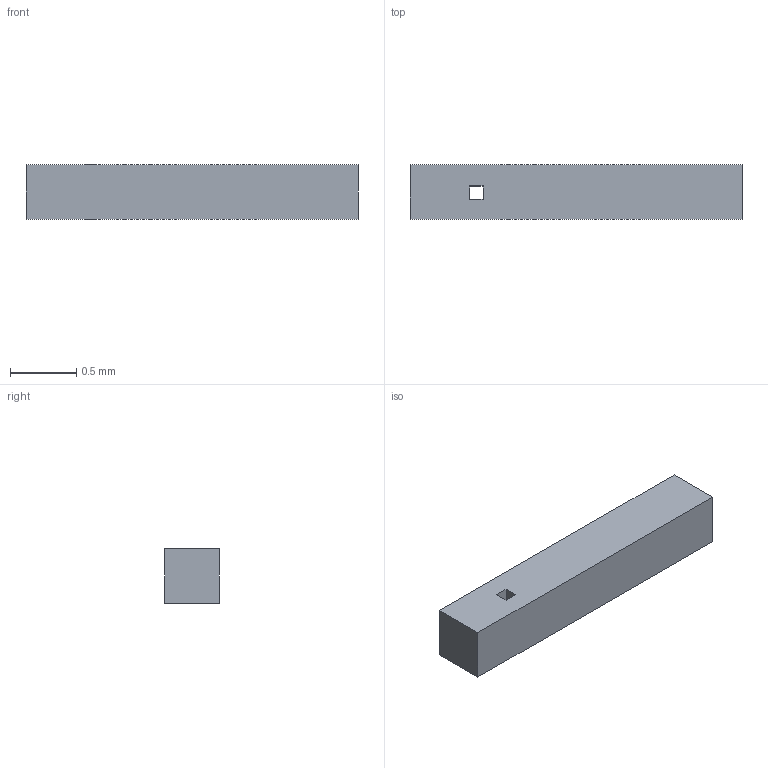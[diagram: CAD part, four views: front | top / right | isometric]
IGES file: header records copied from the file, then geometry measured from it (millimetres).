
Global section: file name: Filename.iges; native system: Open CASCADE 6.2; preprocessor: Open CASCADE IGES processor 6.2; author: mikko; date: 20090315.222127; units: millimetre
Bounding box: 2.5 x 0.41 x 0.41 mm (x, y, z)
Volume: 0.4 mm3; surface area: 4.6 mm2
Topology: 1 solids, 1 shells, 10 faces, 24 edges, 16 vertices
Faces by surface type: plane 10
